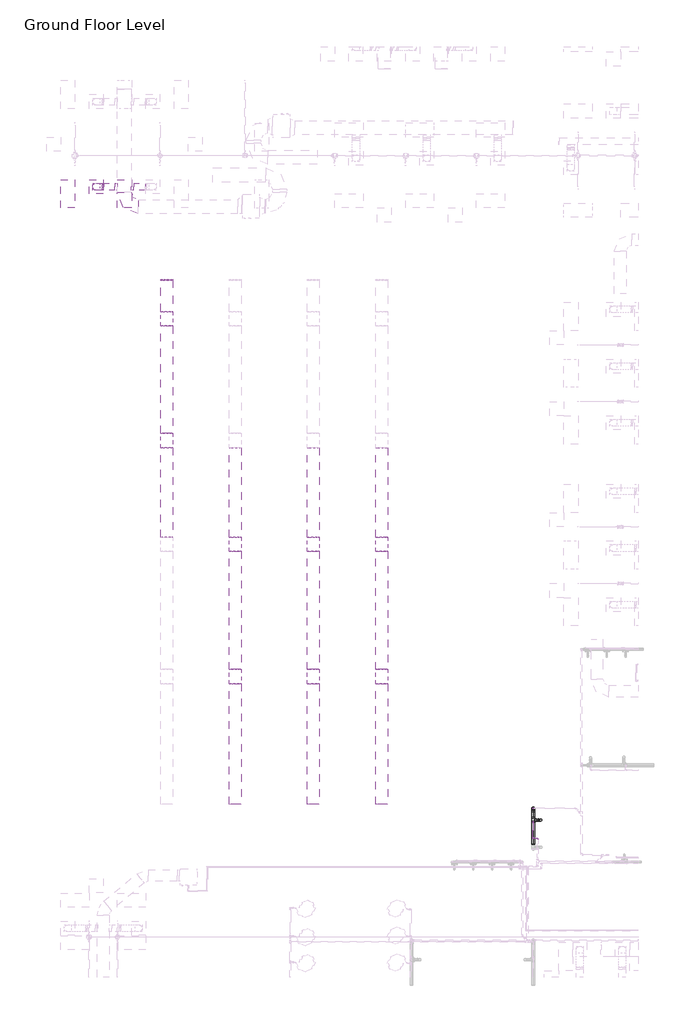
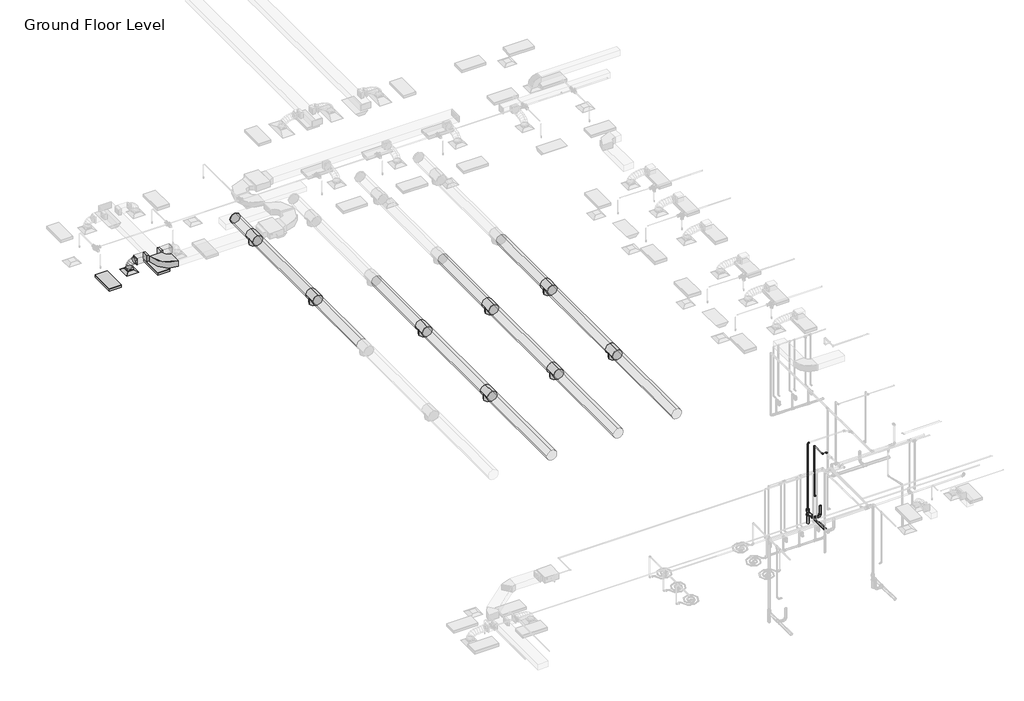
# One storey, part 9 of 68: 15 duct segments, 14 duct fittings, 11 pipe segments, 9 pipe fittings, 2 light fixtures, 1 air terminal.
"""IFC4 building model written with IfcOpenShell, lengths in millimetres."""

from ifc_helpers import new_model, si_unit, point, frame, frame_2d, origin, place, context, project, spatial, polyline, circle_curve, ellipse_curve, trimmed, segment, composite_curve, outline, extrude, transform, mapped, element, save
from ifc_brep_helpers import plane_surface, cylinder_surface, advanced_brep
from components import m_return_diffuser_600_x_600_face_300_x_300_connection_ff221211, m_rectangular_elbow_radius_1_w_c6ed0251, m_rectangular_takeoff_standard_cb0ccb98, m_rectangular_takeoff_standard_2be5eba1, m_rectangular_to_round_transition_angle_45_degree_641efff0, m_round_endcap_standard_1c45c55c, m_round_tee_standard_ed589d36, m_troffer_light_parabolic_rectangular1_0600x1200mm_4_lamp_86473d4a, m_bend_pvc_sch_40_dwv_standard_a4b99d37, m_bend_pvc_sch_40_dwv_standard_aca7b112, m_reducer_pvc_sch_40_dwv_standard_19331f3d, m_tee_reducing_sanitary_pvc_sch_40_dwv_standard_b49161a9, m_tee_reducing_sanitary_pvc_sch_40_dwv_standard_749dcb00, standard_517a5a8d

model = new_model("IFC4")

# Units and contexts
model_context = context("Model", 3, world=origin())
ifc_project = project(units=[si_unit("LENGTHUNIT", "METRE", prefix="MILLI")], contexts=[model_context])

# Site, building, storey
site = spatial("IfcSite", under=ifc_project)
building = spatial("IfcBuilding", under=site)
storey = spatial("IfcBuildingStorey", under=building, Name="Ground Floor Level", Elevation=900.0)

# Air terminal
placement = place(None, origin())
m_return_diffuser_600_x_600_face_300_x_300_connection_shape = m_return_diffuser_600_x_600_face_300_x_300_connection_ff221211(model_context)
element("IfcAirTerminal", 1, ObjectType="M_Supply Diffuser : 600 x 600 Face 300 x 300 Connection", at=placement, inside=storey, context=model_context, shape_type="MappedRepresentation", body=[
    mapped(m_return_diffuser_600_x_600_face_300_x_300_connection_shape, transform((-19137.2327605, -4264.7846466, 3650.0), x_axis=(1.0, 0.0, 0.0), y_axis=(0.0, 1.0, 0.0), z_axis=(0.0, 0.0, 1.0))),
])

# Duct fittings
m_rectangular_elbow_radius_1_w_shape = m_rectangular_elbow_radius_1_w_c6ed0251(model_context)
element("IfcDuctFitting", 2, ObjectType="M_Rectangular Elbow - Radius : 1 W", at=placement, inside=storey, context=model_context, shape_type="MappedRepresentation", body=[
    mapped(m_rectangular_elbow_radius_1_w_shape, transform((-17948.0331707, -5111.2846466, 4099.9999574), x_axis=(0.0, -0.999999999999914, -4.1482844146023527e-07), y_axis=(0.9999999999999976, 0.0, 7.102056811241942e-08), z_axis=(-7.102056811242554e-08, -4.1482844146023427e-07, 0.9999999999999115))),
])
m_rectangular_takeoff_standard_shape = m_rectangular_takeoff_standard_cb0ccb98(model_context)
element("IfcDuctFitting", 3, ObjectType="M_Rectangular Takeoff : Standard", at=placement, inside=storey, context=model_context, shape_type="MappedRepresentation", body=[
    mapped(m_rectangular_takeoff_standard_shape, transform((-18248.0331707, -4264.7846466, 4100.0003085), x_axis=(-1.0, 0.0, 0.0), y_axis=(0.0, 1.0, 0.0), z_axis=(0.0, 0.0, -1.0))),
])
m_rectangular_takeoff_standard_2_shape = m_rectangular_takeoff_standard_2be5eba1(model_context)
element("IfcDuctFitting", 4, ObjectType="M_Rectangular Takeoff : Standard", at=placement, inside=storey, context=model_context, shape_type="MappedRepresentation", body=[
    mapped(m_rectangular_takeoff_standard_2_shape, transform((-17648.0331707, -4264.7846466, 4100.0003085), x_axis=(1.0, 0.0, 0.0), y_axis=(0.0, -1.0, 0.0), z_axis=(0.0, 0.0, -1.0))),
])
m_rectangular_to_round_transition_angle_45_degree_shape = m_rectangular_to_round_transition_angle_45_degree_641efff0(model_context)
element("IfcDuctFitting", 5, ObjectType="M_Rectangular to Round Transition - Angle : 45 Degree", at=placement, inside=storey, context=model_context, shape_type="MappedRepresentation", body=[
    mapped(m_rectangular_to_round_transition_angle_45_degree_shape, transform((-19137.2327605, -4264.7846466, 3751.6), x_axis=(0.0, 0.0, 1.0), y_axis=(-1.0, 0.0, 0.0), z_axis=(0.0, -1.0, 0.0))),
])
element("IfcDuctFitting", 6, ObjectType="M_Rectangular to Round Transition - Angle : 45 Degree", at=placement, inside=storey, context=model_context, shape_type="MappedRepresentation", body=[
    mapped(m_rectangular_to_round_transition_angle_45_degree_shape, transform((-18809.8971378, -4264.7846466, 4100.0003085), x_axis=(-1.0, 0.0, 0.0), y_axis=(0.0, -1.0, 0.0), z_axis=(0.0, 0.0, 1.0))),
])
m_round_endcap_standard_shape = m_round_endcap_standard_1c45c55c(model_context)
element("IfcDuctFitting", 7, ObjectType="M_Round Endcap : Standard", at=placement, inside=storey, context=model_context, shape_type="MappedRepresentation", body=[
    mapped(m_round_endcap_standard_shape, transform((-16150.3527512, -8221.0125677, 7765.9), x_axis=(0.0, 0.9999999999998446, -5.576948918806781e-07), y_axis=(-1.0000000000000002, 0.0, 0.0), z_axis=(0.0, 5.576948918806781e-07, 0.9999999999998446))),
])
m_round_tee_standard_shape = m_round_tee_standard_ed589d36(model_context)
element("IfcDuctFitting", 8, ObjectType="M_Round Tee : Standard", at=placement, inside=storey, context=model_context, shape_type="MappedRepresentation", body=[
    mapped(m_round_tee_standard_shape, transform((-16150.3527512, -9864.7844235, 7765.9009947), x_axis=(0.0, 0.9999999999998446, -5.576948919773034e-07), y_axis=(0.0, 5.576948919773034e-07, 0.9999999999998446), z_axis=(1.0, 0.0, 0.0))),
])
element("IfcDuctFitting", 9, ObjectType="M_Round Tee : Standard", at=placement, inside=storey, context=model_context, shape_type="MappedRepresentation", body=[
    mapped(m_round_tee_standard_shape, transform((-16150.3527512, -15012.784348, 7765.9038657), x_axis=(0.0, 0.9999999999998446, -5.576948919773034e-07), y_axis=(0.0, 5.576948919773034e-07, 0.9999999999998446), z_axis=(1.0, 0.0, 0.0))),
])
element("IfcDuctFitting", 10, ObjectType="M_Round Tee : Standard", at=placement, inside=storey, context=model_context, shape_type="MappedRepresentation", body=[
    mapped(m_round_tee_standard_shape, transform((-13250.3527512, -19404.784563, 7765.9063151), x_axis=(0.0, 0.9999999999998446, -5.576948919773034e-07), y_axis=(0.0, 5.576948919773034e-07, 0.9999999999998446), z_axis=(1.0, 0.0, 0.0))),
])
element("IfcDuctFitting", 11, ObjectType="M_Round Tee : Standard", at=placement, inside=storey, context=model_context, shape_type="MappedRepresentation", body=[
    mapped(m_round_tee_standard_shape, transform((-13250.3527512, -25004.784563, 7765.9094382), x_axis=(0.0, 0.9999999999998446, -5.576948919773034e-07), y_axis=(0.0, 5.576948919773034e-07, 0.9999999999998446), z_axis=(1.0, 0.0, 0.0))),
])
element("IfcDuctFitting", 12, ObjectType="M_Round Tee : Standard", at=placement, inside=storey, context=model_context, shape_type="MappedRepresentation", body=[
    mapped(m_round_tee_standard_shape, transform((-9950.3527512, -19404.784563, 7765.9063151), x_axis=(0.0, 0.9999999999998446, -5.576948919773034e-07), y_axis=(0.0, 5.576948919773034e-07, 0.9999999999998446), z_axis=(1.0, 0.0, 0.0))),
])
element("IfcDuctFitting", 13, ObjectType="M_Round Tee : Standard", at=placement, inside=storey, context=model_context, shape_type="MappedRepresentation", body=[
    mapped(m_round_tee_standard_shape, transform((-9950.3527512, -25004.784563, 7765.9094382), x_axis=(0.0, 0.9999999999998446, -5.576948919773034e-07), y_axis=(0.0, 5.576948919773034e-07, 0.9999999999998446), z_axis=(1.0, 0.0, 0.0))),
])
element("IfcDuctFitting", 14, ObjectType="M_Round Tee : Standard", at=placement, inside=storey, context=model_context, shape_type="MappedRepresentation", body=[
    mapped(m_round_tee_standard_shape, transform((-7050.3527512, -19404.784563, 7765.9063151), x_axis=(0.0, 0.9999999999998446, -5.576948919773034e-07), y_axis=(0.0, 5.576948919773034e-07, 0.9999999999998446), z_axis=(1.0, 0.0, 0.0))),
])
element("IfcDuctFitting", 15, ObjectType="M_Round Tee : Standard", at=placement, inside=storey, context=model_context, shape_type="MappedRepresentation", body=[
    mapped(m_round_tee_standard_shape, transform((-7050.3527512, -25004.784563, 7765.9094382), x_axis=(0.0, 0.9999999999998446, -5.576948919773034e-07), y_axis=(0.0, 5.576948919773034e-07, 0.9999999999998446), z_axis=(1.0, 0.0, 0.0))),
])

# Duct segments
element("IfcDuctSegment", 16, ObjectType="Flex - Round", at=placement, inside=storey, context=model_context, shape_type="AdvancedBrep", body=[
    advanced_brep(
    [(-18987.2327605, -4264.7846466, 3826.6), (-19137.2327605, -4414.7846466, 3826.6), (-19287.2327605, -4264.7846466, 3826.6), (-19137.2327605, -4114.7846466, 3826.6), (-18987.2327605, -4264.7846466, 3832.5806494), (-19137.2327605, -4414.7846466, 3854.3870846), (-19287.2327605, -4264.7846466, 3876.1935198), (-19137.2327605, -4114.7846466, 3854.3870846), (-18983.2864584, -4264.7846466, 3845.866521), (-19122.8954468, -4414.7846466, 3902.6559964), (-19262.5044353, -4264.7846466, 3959.4454718), (-19122.8954468, -4114.7846466, 3902.6559964), (-18960.1038556, -4264.7846466, 3889.9713348), (-19084.1273946, -4414.7846466, 3976.4120685), (-19208.1509336, -4264.7846466, 4062.8528022), (-19084.1273946, -4114.7846466, 3976.4120685), (-18929.3324827, -4264.7846466, 3924.1186367), (-19027.2944369, -4414.7846466, 4039.4801732), (-19125.2563911, -4264.7846466, 4154.8417097), (-19027.2944369, -4114.7846466, 4039.4801732), (-18889.6598286, -4264.7846466, 3949.5853148), (-18958.7624069, -4414.7846466, 4083.4722675), (-19027.8649852, -4264.7846466, 4217.3592203), (-18958.7624069, -4114.7846466, 4083.4722675), (-18888.6275862, -4264.7846466, 3950.0003085), (-18917.6510814, -4414.7846466, 4100.0003085), (-18946.6745767, -4264.7846466, 4250.0003085), (-18917.6510814, -4114.7846466, 4100.0003085), (-18884.8971378, -4264.7846466, 3950.0003085), (-18884.8971378, -4114.7846466, 4100.0003085), (-18884.8971378, -4264.7846466, 4250.0003085), (-18884.8971378, -4414.7846466, 4100.0003085)],
    [
        (0, 1, circle_curve(frame((-19137.2327605, -4264.7846466, 3826.6), z_axis=(0.0, 0.0, -1.0), x_axis=(1.0, 0.0, 0.0)), 150.0)),
        (1, 2, circle_curve(frame((-19137.2327605, -4264.7846466, 3826.6), z_axis=(0.0, 0.0, -1.0), x_axis=(1.0, 0.0, 0.0)), 150.0)),
        (2, 3, circle_curve(frame((-19137.2327605, -4264.7846466, 3826.6), z_axis=(0.0, 0.0, -1.0), x_axis=(1.0, 0.0, 0.0)), 150.0)),
        (3, 0, circle_curve(frame((-19137.2327605, -4264.7846466, 3826.6), z_axis=(0.0, 0.0, -1.0), x_axis=(1.0, 0.0, 0.0)), 150.0)),
        (0, 4),
        (4, 5, ellipse_curve(frame((-19137.2327605, -4264.7846466, 3854.3870846), z_axis=(-0.14386395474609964, 0.0, -0.9895974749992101), x_axis=(0.9895974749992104, 0.0, -0.14386395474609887)), 151.5767813, 150.0)),
        (5, 1),
        (5, 6, ellipse_curve(frame((-19137.2327605, -4264.7846466, 3854.3870846), z_axis=(-0.14386395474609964, 0.0, -0.9895974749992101), x_axis=(0.9895974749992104, 0.0, -0.14386395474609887)), 151.5767813, 150.0)),
        (6, 2),
        (6, 7, ellipse_curve(frame((-19137.2327605, -4264.7846466, 3854.3870846), z_axis=(-0.14386395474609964, 0.0, -0.9895974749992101), x_axis=(0.9895974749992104, 0.0, -0.14386395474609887)), 151.5767813, 150.0)),
        (7, 3),
        (7, 4, ellipse_curve(frame((-19137.2327605, -4264.7846466, 3854.3870846), z_axis=(-0.14386395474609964, 0.0, -0.9895974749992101), x_axis=(0.9895974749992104, 0.0, -0.14386395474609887)), 151.5767813, 150.0)),
        (4, 8),
        (8, 9, ellipse_curve(frame((-19122.8954468, -4264.7846466, 3902.6559964), z_axis=(-0.376794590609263, 0.0, -0.9262968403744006), x_axis=(0.9262968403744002, 0.0, -0.37679459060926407)), 150.717332, 150.0)),
        (9, 5),
        (9, 10, ellipse_curve(frame((-19122.8954468, -4264.7846466, 3902.6559964), z_axis=(-0.376794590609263, 0.0, -0.9262968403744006), x_axis=(0.9262968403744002, 0.0, -0.37679459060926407)), 150.717332, 150.0)),
        (10, 6),
        (10, 11, ellipse_curve(frame((-19122.8954468, -4264.7846466, 3902.6559964), z_axis=(-0.376794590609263, 0.0, -0.9262968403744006), x_axis=(0.9262968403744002, 0.0, -0.37679459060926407)), 150.717332, 150.0)),
        (11, 7),
        (11, 8, ellipse_curve(frame((-19122.8954468, -4264.7846466, 3902.6559964), z_axis=(-0.376794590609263, 0.0, -0.9262968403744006), x_axis=(0.9262968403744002, 0.0, -0.37679459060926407)), 150.717332, 150.0)),
        (8, 12),
        (12, 13, ellipse_curve(frame((-19084.1273946, -4264.7846466, 3976.4120685), z_axis=(-0.5717930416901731, 0.0, -0.8203979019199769), x_axis=(0.8203979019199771, 0.0, -0.5717930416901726)), 151.1748612, 150.0)),
        (13, 9),
        (13, 14, ellipse_curve(frame((-19084.1273946, -4264.7846466, 3976.4120685), z_axis=(-0.5717930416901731, 0.0, -0.8203979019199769), x_axis=(0.8203979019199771, 0.0, -0.5717930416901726)), 151.1748612, 150.0)),
        (14, 10),
        (14, 15, ellipse_curve(frame((-19084.1273946, -4264.7846466, 3976.4120685), z_axis=(-0.5717930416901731, 0.0, -0.8203979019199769), x_axis=(0.8203979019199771, 0.0, -0.5717930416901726)), 151.1748612, 150.0)),
        (15, 11),
        (15, 12, ellipse_curve(frame((-19084.1273946, -4264.7846466, 3976.4120685), z_axis=(-0.5717930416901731, 0.0, -0.8203979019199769), x_axis=(0.8203979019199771, 0.0, -0.5717930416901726)), 151.1748612, 150.0)),
        (12, 16),
        (16, 17, ellipse_curve(frame((-19027.2944369, -4264.7846466, 4039.4801732), z_axis=(-0.7622501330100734, 0.0, -0.6472825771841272), x_axis=(0.6472825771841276, 0.0, -0.7622501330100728)), 151.3434127, 150.0)),
        (17, 13),
        (17, 18, ellipse_curve(frame((-19027.2944369, -4264.7846466, 4039.4801732), z_axis=(-0.7622501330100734, 0.0, -0.6472825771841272), x_axis=(0.6472825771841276, 0.0, -0.7622501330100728)), 151.3434127, 150.0)),
        (18, 14),
        (18, 19, ellipse_curve(frame((-19027.2944369, -4264.7846466, 4039.4801732), z_axis=(-0.7622501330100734, 0.0, -0.6472825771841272), x_axis=(0.6472825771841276, 0.0, -0.7622501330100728)), 151.3434127, 150.0)),
        (19, 15),
        (19, 16, ellipse_curve(frame((-19027.2944369, -4264.7846466, 4039.4801732), z_axis=(-0.7622501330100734, 0.0, -0.6472825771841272), x_axis=(0.6472825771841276, 0.0, -0.7622501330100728)), 151.3434127, 150.0)),
        (16, 20),
        (20, 21, ellipse_curve(frame((-18958.7624069, -4264.7846466, 4083.4722675), z_axis=(-0.8886216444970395, 0.0, -0.45864100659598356), x_axis=(0.45864100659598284, 0.0, -0.88862164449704)), 150.6681202, 150.0)),
        (21, 17),
        (21, 22, ellipse_curve(frame((-18958.7624069, -4264.7846466, 4083.4722675), z_axis=(-0.8886216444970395, 0.0, -0.45864100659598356), x_axis=(0.45864100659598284, 0.0, -0.88862164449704)), 150.6681202, 150.0)),
        (22, 18),
        (22, 23, ellipse_curve(frame((-18958.7624069, -4264.7846466, 4083.4722675), z_axis=(-0.8886216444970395, 0.0, -0.45864100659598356), x_axis=(0.45864100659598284, 0.0, -0.88862164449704)), 150.6681202, 150.0)),
        (23, 19),
        (23, 20, ellipse_curve(frame((-18958.7624069, -4264.7846466, 4083.4722675), z_axis=(-0.8886216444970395, 0.0, -0.45864100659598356), x_axis=(0.45864100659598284, 0.0, -0.88862164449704)), 150.6681202, 150.0)),
        (20, 24),
        (24, 25, ellipse_curve(frame((-18917.6510814, -4264.7846466, 4100.0003085), z_axis=(-0.9817905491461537, 0.0, -0.18996662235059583), x_axis=(0.18996662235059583, 0.0, -0.9817905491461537)), 152.7820777, 150.0)),
        (25, 21),
        (25, 26, ellipse_curve(frame((-18917.6510814, -4264.7846466, 4100.0003085), z_axis=(-0.9817905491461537, 0.0, -0.18996662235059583), x_axis=(0.18996662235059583, 0.0, -0.9817905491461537)), 152.7820777, 150.0)),
        (26, 22),
        (26, 27, ellipse_curve(frame((-18917.6510814, -4264.7846466, 4100.0003085), z_axis=(-0.9817905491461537, 0.0, -0.18996662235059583), x_axis=(0.18996662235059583, 0.0, -0.9817905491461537)), 152.7820777, 150.0)),
        (27, 23),
        (27, 24, ellipse_curve(frame((-18917.6510814, -4264.7846466, 4100.0003085), z_axis=(-0.9817905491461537, 0.0, -0.18996662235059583), x_axis=(0.18996662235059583, 0.0, -0.9817905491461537)), 152.7820777, 150.0)),
        (28, 29, circle_curve(frame((-18884.8971378, -4264.7846466, 4100.0003085), z_axis=(1.0, 0.0, 0.0), x_axis=(0.0, 0.0, -1.0)), 150.0)),
        (29, 30, circle_curve(frame((-18884.8971378, -4264.7846466, 4100.0003085), z_axis=(1.0, 0.0, 0.0), x_axis=(0.0, 0.0, -1.0)), 150.0)),
        (30, 31, circle_curve(frame((-18884.8971378, -4264.7846466, 4100.0003085), z_axis=(1.0, 0.0, 0.0), x_axis=(0.0, 0.0, -1.0)), 150.0)),
        (31, 28, circle_curve(frame((-18884.8971378, -4264.7846466, 4100.0003085), z_axis=(1.0, 0.0, 0.0), x_axis=(0.0, 0.0, -1.0)), 150.0)),
        (24, 28),
        (31, 25),
        (30, 26),
        (29, 27),
    ],
    [
        plane_surface(frame((-19137.2327605, -4414.7846466, 3826.6), z_axis=(0.0, 0.0, -1.0), x_axis=(1.0, 0.0, 0.0))),
        cylinder_surface(frame((-19137.2327605, -4264.7846466, 3826.6), z_axis=(0.0, 0.0, -1.0), x_axis=(1.0, 0.0, 0.0)), 150.0),
        cylinder_surface(frame((-19137.2327605, -4264.7846466, 3854.3870846), z_axis=(-0.28473481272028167, 0.0, -0.9586063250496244), x_axis=(0.9586063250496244, 0.0, -0.28473481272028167)), 150.0),
        cylinder_surface(frame((-19122.8954468, -4264.7846466, 3902.6559964), z_axis=(-0.4652676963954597, 0.0, -0.8851700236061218), x_axis=(0.8851700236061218, 0.0, -0.4652676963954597)), 150.0),
        cylinder_surface(frame((-19084.1273946, -4264.7846466, 3976.4120685), z_axis=(-0.6694309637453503, 0.0, -0.7428742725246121), x_axis=(0.7428742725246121, 0.0, -0.6694309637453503)), 150.0),
        cylinder_surface(frame((-19027.2944369, -4264.7846466, 4039.4801732), z_axis=(-0.8415369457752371, 0.0, -0.5401995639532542), x_axis=(0.5401995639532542, 0.0, -0.8415369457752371)), 150.0),
        cylinder_surface(frame((-18958.7624069, -4264.7846466, 4083.4722675), z_axis=(-0.9278253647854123, 0.0, -0.37301486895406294), x_axis=(0.37301486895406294, 0.0, -0.9278253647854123)), 150.0),
        plane_surface(frame((-18884.8971378, -4264.7846466, 3950.0003085), z_axis=(1.0, 0.0, 0.0), x_axis=(0.0, 1.0, 0.0))),
        cylinder_surface(frame((-18917.6510814, -4264.7846466, 4100.0003085), z_axis=(-1.0, 0.0, 0.0), x_axis=(0.0, 0.0, -1.0)), 150.0),
    ],
    [
        (0, [[1, 2, 3, 4]]),
        (1, [[-1, 5, 6, 7]]),
        (1, [[-2, -7, 8, 9]]),
        (1, [[-3, -9, 10, 11]]),
        (1, [[-4, -11, 12, -5]]),
        (2, [[-6, 13, 14, 15]]),
        (2, [[-8, -15, 16, 17]]),
        (2, [[-10, -17, 18, 19]]),
        (2, [[-12, -19, 20, -13]]),
        (3, [[-14, 21, 22, 23]]),
        (3, [[-16, -23, 24, 25]]),
        (3, [[-18, -25, 26, 27]]),
        (3, [[-20, -27, 28, -21]]),
        (4, [[-22, 29, 30, 31]]),
        (4, [[-24, -31, 32, 33]]),
        (4, [[-26, -33, 34, 35]]),
        (4, [[-28, -35, 36, -29]]),
        (5, [[-30, 37, 38, 39]]),
        (5, [[-32, -39, 40, 41]]),
        (5, [[-34, -41, 42, 43]]),
        (5, [[-36, -43, 44, -37]]),
        (6, [[-38, 45, 46, 47]]),
        (6, [[-40, -47, 48, 49]]),
        (6, [[-42, -49, 50, 51]]),
        (6, [[-44, -51, 52, -45]]),
        (7, [[53, 54, 55, 56]]),
        (8, [[-46, 57, -56, 58]]),
        (8, [[-48, -58, -55, 59]]),
        (8, [[-50, -59, -54, 60]]),
        (8, [[-52, -60, -53, -57]]),
    ],
),
])
element("IfcDuctSegment", 17, ObjectType="Radius Elbows / Taps", at=placement, inside=storey, context=model_context, shape_type="SweptSolid", body=[
    extrude(outline(polyline([(-17546.4331707, -4414.7846466), (-17546.4331707, -4114.7846466), (-17064.5683833, -4114.7846466), (-17064.5683833, -4414.7846466), (-17546.4331707, -4414.7846466)])), frame((0.0, 0.0, 3950.0003085), z_axis=(0.0, 0.0, 1.0), x_axis=(1.0, 0.0, 0.0)), (0.0, 0.0, 1.0), 300.0),
])
element("IfcDuctSegment", 18, ObjectType="Radius Elbows / Taps", at=placement, inside=storey, context=model_context, shape_type="SweptSolid", body=[
    extrude(outline(polyline([(-18349.6331707, -4114.7846466), (-18349.6331707, -4414.7846466), (-18809.8971378, -4414.7846466), (-18809.8971378, -4114.7846466), (-18349.6331707, -4114.7846466)])), frame((0.0, 0.0, 3950.0003085), z_axis=(0.0, 0.0, 1.0), x_axis=(1.0, 0.0, 0.0)), (0.0, 0.0, 1.0), 300.0),
])
element("IfcDuctSegment", 19, ObjectType="Tees", at=placement, inside=storey, context=model_context, shape_type="SweptSolid", body=[
    extrude(outline(composite_curve([segment(trimmed(circle_curve(frame_2d((7765.9008274, -16150.3527512)), 250.0), [point((7765.9008274, -16400.3527512))], [point((7515.9008274, -16150.3527512))], False, "CARTESIAN"), True, "CONTINUOUS"), segment(trimmed(circle_curve(frame_2d((7765.9008274, -16150.3527512)), 250.0), [point((7515.9008274, -16150.3527512))], [point((7765.9008274, -15900.3527512))], False, "CARTESIAN"), True, "CONTINUOUS"), segment(trimmed(circle_curve(frame_2d((7765.9008274, -16150.3527512)), 250.0), [point((7765.9008274, -15900.3527512))], [point((8015.9008274, -16150.3527512))], False, "CARTESIAN"), True, "CONTINUOUS"), segment(trimmed(circle_curve(frame_2d((7765.9008274, -16150.3527512)), 250.0), [point((8015.9008274, -16150.3527512))], [point((7765.9008274, -16400.3527512))], False, "CARTESIAN"), True, "CONTINUOUS")], self_intersect=False)), frame((0.0, -9564.7844235, 0.0), z_axis=(0.0, 1.0, 0.0), x_axis=(0.0, 0.0, 1.0)), (0.0, 0.0, 1.0), 1343.7718558),
])
element("IfcDuctSegment", 20, ObjectType="Tees", at=placement, inside=storey, context=model_context, shape_type="SweptSolid", body=[
    extrude(outline(composite_curve([segment(trimmed(circle_curve(frame_2d((7765.901162, -16150.3527512)), 250.0), [point((7765.901162, -16400.3527512))], [point((7515.901162, -16150.3527512))], False, "CARTESIAN"), True, "CONTINUOUS"), segment(trimmed(circle_curve(frame_2d((7765.901162, -16150.3527512)), 250.0), [point((7515.901162, -16150.3527512))], [point((7765.901162, -15900.3527512))], False, "CARTESIAN"), True, "CONTINUOUS"), segment(trimmed(circle_curve(frame_2d((7765.901162, -16150.3527512)), 250.0), [point((7765.901162, -15900.3527512))], [point((8015.901162, -16150.3527512))], False, "CARTESIAN"), True, "CONTINUOUS"), segment(trimmed(circle_curve(frame_2d((7765.901162, -16150.3527512)), 250.0), [point((8015.901162, -16150.3527512))], [point((7765.901162, -16400.3527512))], False, "CARTESIAN"), True, "CONTINUOUS")], self_intersect=False)), frame((0.0, -14712.784348, 0.0), z_axis=(0.0, 1.0, 0.0), x_axis=(0.0, 0.0, 1.0)), (0.0, 0.0, 1.0), 4547.9999245),
])
element("IfcDuctSegment", 21, ObjectType="Tees", at=placement, inside=storey, context=model_context, shape_type="SweptSolid", body=[
    extrude(outline(composite_curve([segment(trimmed(circle_curve(frame_2d((7765.9061478, -16150.3527512)), 250.0), [point((7765.9061478, -15900.3527512))], [point((8015.9061478, -16150.3527512))], False, "CARTESIAN"), True, "CONTINUOUS"), segment(trimmed(circle_curve(frame_2d((7765.9061478, -16150.3527512)), 250.0), [point((8015.9061478, -16150.3527512))], [point((7765.9061478, -16400.3527512))], False, "CARTESIAN"), True, "CONTINUOUS"), segment(trimmed(circle_curve(frame_2d((7765.9061478, -16150.3527512)), 250.0), [point((7765.9061478, -16400.3527512))], [point((7515.9061478, -16150.3527512))], False, "CARTESIAN"), True, "CONTINUOUS"), segment(trimmed(circle_curve(frame_2d((7765.9061478, -16150.3527512)), 250.0), [point((7515.9061478, -16150.3527512))], [point((7765.9061478, -15900.3527512))], False, "CARTESIAN"), True, "CONTINUOUS")], self_intersect=False)), frame((0.0, -19104.784563, 0.0), z_axis=(0.0, 1.0, 0.0), x_axis=(0.0, 0.0, 1.0)), (0.0, 0.0, 1.0), 3792.000215),
])
element("IfcDuctSegment", 22, ObjectType="Tees", at=placement, inside=storey, context=model_context, shape_type="SweptSolid", body=[
    extrude(outline(composite_curve([segment(trimmed(circle_curve(frame_2d((7765.9061478, -13250.3527512)), 250.0), [point((7765.9061478, -13000.3527512))], [point((8015.9061478, -13250.3527512))], False, "CARTESIAN"), True, "CONTINUOUS"), segment(trimmed(circle_curve(frame_2d((7765.9061478, -13250.3527512)), 250.0), [point((8015.9061478, -13250.3527512))], [point((7765.9061478, -13500.3527512))], False, "CARTESIAN"), True, "CONTINUOUS"), segment(trimmed(circle_curve(frame_2d((7765.9061478, -13250.3527512)), 250.0), [point((7765.9061478, -13500.3527512))], [point((7515.9061478, -13250.3527512))], False, "CARTESIAN"), True, "CONTINUOUS"), segment(trimmed(circle_curve(frame_2d((7765.9061478, -13250.3527512)), 250.0), [point((7515.9061478, -13250.3527512))], [point((7765.9061478, -13000.3527512))], False, "CARTESIAN"), True, "CONTINUOUS")], self_intersect=False)), frame((0.0, -19104.784563, 0.0), z_axis=(0.0, 1.0, 0.0), x_axis=(0.0, 0.0, 1.0)), (0.0, 0.0, 1.0), 3792.000215),
])
element("IfcDuctSegment", 23, ObjectType="Tees", at=placement, inside=storey, context=model_context, shape_type="SweptSolid", body=[
    extrude(outline(composite_curve([segment(trimmed(circle_curve(frame_2d((7765.9092709, -13250.3527512)), 250.0), [point((7765.9092709, -13000.3527512))], [point((8015.9092709, -13250.3527512))], False, "CARTESIAN"), True, "CONTINUOUS"), segment(trimmed(circle_curve(frame_2d((7765.9092709, -13250.3527512)), 250.0), [point((8015.9092709, -13250.3527512))], [point((7765.9092709, -13500.3527512))], False, "CARTESIAN"), True, "CONTINUOUS"), segment(trimmed(circle_curve(frame_2d((7765.9092709, -13250.3527512)), 250.0), [point((7765.9092709, -13500.3527512))], [point((7515.9092709, -13250.3527512))], False, "CARTESIAN"), True, "CONTINUOUS"), segment(trimmed(circle_curve(frame_2d((7765.9092709, -13250.3527512)), 250.0), [point((7515.9092709, -13250.3527512))], [point((7765.9092709, -13000.3527512))], False, "CARTESIAN"), True, "CONTINUOUS")], self_intersect=False)), frame((0.0, -24704.784563, 0.0), z_axis=(0.0, 1.0, 0.0), x_axis=(0.0, 0.0, 1.0)), (0.0, 0.0, 1.0), 5000.0),
])
element("IfcDuctSegment", 24, ObjectType="Tees", at=placement, inside=storey, context=model_context, shape_type="SweptSolid", body=[
    extrude(outline(composite_curve([segment(trimmed(circle_curve(frame_2d((7765.9125, -13250.3527512)), 250.0), [point((7765.9125, -13000.3527512))], [point((8015.9125, -13250.3527512))], False, "CARTESIAN"), True, "CONTINUOUS"), segment(trimmed(circle_curve(frame_2d((7765.9125, -13250.3527512)), 250.0), [point((8015.9125, -13250.3527512))], [point((7765.9125, -13500.3527512))], False, "CARTESIAN"), True, "CONTINUOUS"), segment(trimmed(circle_curve(frame_2d((7765.9125, -13250.3527512)), 250.0), [point((7765.9125, -13500.3527512))], [point((7515.9125, -13250.3527512))], False, "CARTESIAN"), True, "CONTINUOUS"), segment(trimmed(circle_curve(frame_2d((7765.9125, -13250.3527512)), 250.0), [point((7515.9125, -13250.3527512))], [point((7765.9125, -13000.3527512))], False, "CARTESIAN"), True, "CONTINUOUS")], self_intersect=False)), frame((0.0, -30422.0587669, 0.0), z_axis=(0.0, 1.0, 0.0), x_axis=(0.0, 0.0, 1.0)), (0.0, 0.0, 1.0), 5117.2742039),
])
element("IfcDuctSegment", 25, ObjectType="Tees", at=placement, inside=storey, context=model_context, shape_type="SweptSolid", body=[
    extrude(outline(composite_curve([segment(trimmed(circle_curve(frame_2d((7765.9061478, -9950.3527512)), 250.0), [point((7765.9061478, -9700.3527512))], [point((8015.9061478, -9950.3527512))], False, "CARTESIAN"), True, "CONTINUOUS"), segment(trimmed(circle_curve(frame_2d((7765.9061478, -9950.3527512)), 250.0), [point((8015.9061478, -9950.3527512))], [point((7765.9061478, -10200.3527512))], False, "CARTESIAN"), True, "CONTINUOUS"), segment(trimmed(circle_curve(frame_2d((7765.9061478, -9950.3527512)), 250.0), [point((7765.9061478, -10200.3527512))], [point((7515.9061478, -9950.3527512))], False, "CARTESIAN"), True, "CONTINUOUS"), segment(trimmed(circle_curve(frame_2d((7765.9061478, -9950.3527512)), 250.0), [point((7515.9061478, -9950.3527512))], [point((7765.9061478, -9700.3527512))], False, "CARTESIAN"), True, "CONTINUOUS")], self_intersect=False)), frame((0.0, -19104.784563, 0.0), z_axis=(0.0, 1.0, 0.0), x_axis=(0.0, 0.0, 1.0)), (0.0, 0.0, 1.0), 3792.000215),
])
element("IfcDuctSegment", 26, ObjectType="Tees", at=placement, inside=storey, context=model_context, shape_type="SweptSolid", body=[
    extrude(outline(composite_curve([segment(trimmed(circle_curve(frame_2d((7765.9092709, -9950.3527512)), 250.0), [point((7765.9092709, -9700.3527512))], [point((8015.9092709, -9950.3527512))], False, "CARTESIAN"), True, "CONTINUOUS"), segment(trimmed(circle_curve(frame_2d((7765.9092709, -9950.3527512)), 250.0), [point((8015.9092709, -9950.3527512))], [point((7765.9092709, -10200.3527512))], False, "CARTESIAN"), True, "CONTINUOUS"), segment(trimmed(circle_curve(frame_2d((7765.9092709, -9950.3527512)), 250.0), [point((7765.9092709, -10200.3527512))], [point((7515.9092709, -9950.3527512))], False, "CARTESIAN"), True, "CONTINUOUS"), segment(trimmed(circle_curve(frame_2d((7765.9092709, -9950.3527512)), 250.0), [point((7515.9092709, -9950.3527512))], [point((7765.9092709, -9700.3527512))], False, "CARTESIAN"), True, "CONTINUOUS")], self_intersect=False)), frame((0.0, -24704.784563, 0.0), z_axis=(0.0, 1.0, 0.0), x_axis=(0.0, 0.0, 1.0)), (0.0, 0.0, 1.0), 5000.0),
])
element("IfcDuctSegment", 27, ObjectType="Tees", at=placement, inside=storey, context=model_context, shape_type="SweptSolid", body=[
    extrude(outline(composite_curve([segment(trimmed(circle_curve(frame_2d((7765.9125, -9950.3527512)), 250.0), [point((7765.9125, -9700.3527512))], [point((8015.9125, -9950.3527512))], False, "CARTESIAN"), True, "CONTINUOUS"), segment(trimmed(circle_curve(frame_2d((7765.9125, -9950.3527512)), 250.0), [point((8015.9125, -9950.3527512))], [point((7765.9125, -10200.3527512))], False, "CARTESIAN"), True, "CONTINUOUS"), segment(trimmed(circle_curve(frame_2d((7765.9125, -9950.3527512)), 250.0), [point((7765.9125, -10200.3527512))], [point((7515.9125, -9950.3527512))], False, "CARTESIAN"), True, "CONTINUOUS"), segment(trimmed(circle_curve(frame_2d((7765.9125, -9950.3527512)), 250.0), [point((7515.9125, -9950.3527512))], [point((7765.9125, -9700.3527512))], False, "CARTESIAN"), True, "CONTINUOUS")], self_intersect=False)), frame((0.0, -30422.0587669, 0.0), z_axis=(0.0, 1.0, 0.0), x_axis=(0.0, 0.0, 1.0)), (0.0, 0.0, 1.0), 5117.2742039),
])
element("IfcDuctSegment", 28, ObjectType="Tees", at=placement, inside=storey, context=model_context, shape_type="SweptSolid", body=[
    extrude(outline(composite_curve([segment(trimmed(circle_curve(frame_2d((7765.9061478, -7050.3527512)), 250.0), [point((7765.9061478, -6800.3527512))], [point((8015.9061478, -7050.3527512))], False, "CARTESIAN"), True, "CONTINUOUS"), segment(trimmed(circle_curve(frame_2d((7765.9061478, -7050.3527512)), 250.0), [point((8015.9061478, -7050.3527512))], [point((7765.9061478, -7300.3527512))], False, "CARTESIAN"), True, "CONTINUOUS"), segment(trimmed(circle_curve(frame_2d((7765.9061478, -7050.3527512)), 250.0), [point((7765.9061478, -7300.3527512))], [point((7515.9061478, -7050.3527512))], False, "CARTESIAN"), True, "CONTINUOUS"), segment(trimmed(circle_curve(frame_2d((7765.9061478, -7050.3527512)), 250.0), [point((7515.9061478, -7050.3527512))], [point((7765.9061478, -6800.3527512))], False, "CARTESIAN"), True, "CONTINUOUS")], self_intersect=False)), frame((0.0, -19104.784563, 0.0), z_axis=(0.0, 1.0, 0.0), x_axis=(0.0, 0.0, 1.0)), (0.0, 0.0, 1.0), 3792.000215),
])
element("IfcDuctSegment", 29, ObjectType="Tees", at=placement, inside=storey, context=model_context, shape_type="SweptSolid", body=[
    extrude(outline(composite_curve([segment(trimmed(circle_curve(frame_2d((7765.9092709, -7050.3527512)), 250.0), [point((7765.9092709, -6800.3527512))], [point((8015.9092709, -7050.3527512))], False, "CARTESIAN"), True, "CONTINUOUS"), segment(trimmed(circle_curve(frame_2d((7765.9092709, -7050.3527512)), 250.0), [point((8015.9092709, -7050.3527512))], [point((7765.9092709, -7300.3527512))], False, "CARTESIAN"), True, "CONTINUOUS"), segment(trimmed(circle_curve(frame_2d((7765.9092709, -7050.3527512)), 250.0), [point((7765.9092709, -7300.3527512))], [point((7515.9092709, -7050.3527512))], False, "CARTESIAN"), True, "CONTINUOUS"), segment(trimmed(circle_curve(frame_2d((7765.9092709, -7050.3527512)), 250.0), [point((7515.9092709, -7050.3527512))], [point((7765.9092709, -6800.3527512))], False, "CARTESIAN"), True, "CONTINUOUS")], self_intersect=False)), frame((0.0, -24704.784563, 0.0), z_axis=(0.0, 1.0, 0.0), x_axis=(0.0, 0.0, 1.0)), (0.0, 0.0, 1.0), 5000.0),
])
element("IfcDuctSegment", 30, ObjectType="Tees", at=placement, inside=storey, context=model_context, shape_type="SweptSolid", body=[
    extrude(outline(composite_curve([segment(trimmed(circle_curve(frame_2d((7765.9125, -7050.3527512)), 250.0), [point((7765.9125, -6800.3527512))], [point((8015.9125, -7050.3527512))], False, "CARTESIAN"), True, "CONTINUOUS"), segment(trimmed(circle_curve(frame_2d((7765.9125, -7050.3527512)), 250.0), [point((8015.9125, -7050.3527512))], [point((7765.9125, -7300.3527512))], False, "CARTESIAN"), True, "CONTINUOUS"), segment(trimmed(circle_curve(frame_2d((7765.9125, -7050.3527512)), 250.0), [point((7765.9125, -7300.3527512))], [point((7515.9125, -7050.3527512))], False, "CARTESIAN"), True, "CONTINUOUS"), segment(trimmed(circle_curve(frame_2d((7765.9125, -7050.3527512)), 250.0), [point((7515.9125, -7050.3527512))], [point((7765.9125, -6800.3527512))], False, "CARTESIAN"), True, "CONTINUOUS")], self_intersect=False)), frame((0.0, -30422.0587669, 0.0), z_axis=(0.0, 1.0, 0.0), x_axis=(0.0, 0.0, 1.0)), (0.0, 0.0, 1.0), 5117.2742039),
])

# Light fixtures
m_troffer_light_parabolic_rectangular1_0600x1200mm_4_lamp_shape = m_troffer_light_parabolic_rectangular1_0600x1200mm_4_lamp_86473d4a(model_context)
element("IfcLightFixture", 31, ObjectType="M_Troffer Light - Parabolic Rectangular1 : 0600x1200mm(4 Lamp) - 277V 2", at=placement, inside=storey, context=model_context, shape_type="MappedRepresentation", body=[
    mapped(m_troffer_light_parabolic_rectangular1_0600x1200mm_4_lamp_shape, transform((-20396.6986926, -4546.081145, 3650.0), x_axis=(0.0, 1.0, 0.0), y_axis=(-1.0, 0.0, 0.0), z_axis=(0.0, 0.0, 1.0))),
])
element("IfcLightFixture", 32, ObjectType="M_Troffer Light - Parabolic Rectangular1 : 0600x1200mm(4 Lamp) - 277V 2", at=placement, inside=storey, context=model_context, shape_type="MappedRepresentation", body=[
    mapped(m_troffer_light_parabolic_rectangular1_0600x1200mm_4_lamp_shape, transform((-17996.6986926, -4546.081145, 3650.0), x_axis=(0.0, 1.0, 0.0), y_axis=(-1.0, 0.0, 0.0), z_axis=(0.0, 0.0, 1.0))),
])

# Pipe fittings
m_bend_pvc_sch_40_dwv_standard_shape = m_bend_pvc_sch_40_dwv_standard_a4b99d37(model_context)
element("IfcPipeFitting", 33, ObjectType="M_Bend - PVC - Sch 40 - DWV : Standard", at=placement, inside=storey, context=model_context, shape_type="MappedRepresentation", body=[
    mapped(m_bend_pvc_sch_40_dwv_standard_shape, transform((-313.6900632, -31081.5465789, 464.3982101), x_axis=(0.0, 0.0, -1.0), y_axis=(-1.0, 0.0, 0.0), z_axis=(0.0, 1.0, 0.0))),
])
m_bend_pvc_sch_40_dwv_standard_2_shape = m_bend_pvc_sch_40_dwv_standard_aca7b112(model_context)
element("IfcPipeFitting", 34, ObjectType="M_Bend - PVC - Sch 40 - DWV : Standard", at=placement, inside=storey, context=model_context, shape_type="MappedRepresentation", body=[
    mapped(m_bend_pvc_sch_40_dwv_standard_2_shape, transform((-633.5363684, -30581.7541446, 4084.0463877), x_axis=(0.0, 0.0, 1.0), y_axis=(1.0, 0.0, 0.0), z_axis=(0.0, 1.0, 0.0))),
])
m_reducer_pvc_sch_40_dwv_standard_shape = m_reducer_pvc_sch_40_dwv_standard_19331f3d(model_context)
element("IfcPipeFitting", 35, ObjectType="M_Reducer - PVC - Sch 40 - DWV : Standard", at=placement, inside=storey, context=model_context, shape_type="MappedRepresentation", body=[
    mapped(m_reducer_pvc_sch_40_dwv_standard_shape, transform((-633.5600391, -30581.725568, 578.5642409), x_axis=(0.0, 0.0, 1.0), y_axis=(0.0, 1.0, 0.0), z_axis=(-1.0, 0.0, 0.0))),
])
m_tee_reducing_sanitary_pvc_sch_40_dwv_standard_shape = m_tee_reducing_sanitary_pvc_sch_40_dwv_standard_b49161a9(model_context)
element("IfcPipeFitting", 36, ObjectType="M_Tee Reducing Sanitary - PVC - Sch 40 - DWV : Standard", at=placement, inside=storey, context=model_context, shape_type="MappedRepresentation", body=[
    mapped(m_tee_reducing_sanitary_pvc_sch_40_dwv_standard_shape, transform((-633.5600391, -31081.5465789, 464.3982101), x_axis=(0.0, -0.9999500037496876, 0.009999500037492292), y_axis=(-1.0, 0.0, 0.0), z_axis=(0.0, -0.009999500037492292, -0.9999500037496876))),
])
m_tee_reducing_sanitary_pvc_sch_40_dwv_standard_2_shape = m_tee_reducing_sanitary_pvc_sch_40_dwv_standard_749dcb00(model_context)
element("IfcPipeFitting", 37, ObjectType="M_Tee Reducing Sanitary - PVC - Sch 40 - DWV : Standard", at=placement, inside=storey, context=model_context, shape_type="MappedRepresentation", body=[
    mapped(m_tee_reducing_sanitary_pvc_sch_40_dwv_standard_2_shape, transform((-633.5600391, -30581.725568, 459.4), x_axis=(0.0, 0.0, 1.0), y_axis=(0.0, 1.0, 0.0), z_axis=(-1.0, 0.0, 0.0))),
])
standard_shape = standard_517a5a8d(model_context)
element("IfcPipeFitting", 38, ObjectType="M_Elbow - CPVC - Sch 40 : Standard", at=placement, inside=storey, context=model_context, shape_type="MappedRepresentation", body=[
    mapped(standard_shape, transform((-647.2327605, -31154.9853451, 1655.0), x_axis=(-1.0, 0.0, 0.0), y_axis=(0.0, 0.0, 1.0), z_axis=(0.0, 1.0, 0.0))),
])
element("IfcPipeFitting", 39, ObjectType="M_Elbow - CPVC - Sch 40 : Standard", at=placement, inside=storey, context=model_context, shape_type="MappedRepresentation", body=[
    mapped(standard_shape, transform((-647.2327605, -31154.9853451, 4300.0), x_axis=(0.0, 0.0, 1.0), y_axis=(0.0, -1.0, 0.0), z_axis=(1.0, 0.0, 0.0))),
])
element("IfcPipeFitting", 40, ObjectType="M_Elbow - CPVC - Sch 40 : Standard", at=placement, inside=storey, context=model_context, shape_type="MappedRepresentation", body=[
    mapped(standard_shape, transform((-647.2327605, -31854.9853451, 4300.0), x_axis=(0.0, -1.0, 0.0), y_axis=(1.0, 0.0, 0.0), z_axis=(0.0, 0.0, 1.0))),
])
element("IfcPipeFitting", 41, ObjectType="M_Elbow - CPVC - Sch 40 : Standard", at=placement, inside=storey, context=model_context, shape_type="MappedRepresentation", body=[
    mapped(standard_shape, transform((-447.2327605, -31854.9853451, 4300.0), x_axis=(0.0, 1.0, 0.0), y_axis=(-1.0, 0.0, 0.0), z_axis=(0.0, 0.0, 1.0))),
])

# Pipe segments
element("IfcPipeSegment", 42, ObjectType="CPVC", at=placement, inside=storey, context=model_context, shape_type="SweptSolid", body=[
    extrude(outline(composite_curve([segment(trimmed(circle_curve(frame_2d((-31154.9853451, 1655.0)), 16.7005), [point((-31138.2848451, 1655.0))], [point((-31154.9853451, 1638.2995))], False, "CARTESIAN"), True, "CONTINUOUS"), segment(trimmed(circle_curve(frame_2d((-31154.9853451, 1655.0)), 16.7005), [point((-31154.9853451, 1638.2995))], [point((-31171.6858451, 1655.0))], False, "CARTESIAN"), True, "CONTINUOUS"), segment(trimmed(circle_curve(frame_2d((-31154.9853451, 1655.0)), 16.7005), [point((-31171.6858451, 1655.0))], [point((-31154.9853451, 1671.7005))], False, "CARTESIAN"), True, "CONTINUOUS"), segment(trimmed(circle_curve(frame_2d((-31154.9853451, 1655.0)), 16.7005), [point((-31154.9853451, 1671.7005))], [point((-31138.2848451, 1655.0))], False, "CARTESIAN"), True, "CONTINUOUS")], self_intersect=False)), frame((-603.9702105, 0.0, 0.0), z_axis=(1.0, 0.0, 0.0), x_axis=(0.0, 1.0, 0.0)), (0.0, 0.0, 1.0), 56.73745),
])
element("IfcPipeSegment", 43, ObjectType="CPVC", at=placement, inside=storey, context=model_context, shape_type="SweptSolid", body=[
    extrude(outline(composite_curve([segment(trimmed(circle_curve(frame_2d((4300.0, -647.2327605)), 16.7005), [point((4300.0, -663.9332605))], [point((4283.2995, -647.2327605))], False, "CARTESIAN"), True, "CONTINUOUS"), segment(trimmed(circle_curve(frame_2d((4300.0, -647.2327605)), 16.7005), [point((4283.2995, -647.2327605))], [point((4300.0, -630.5322605))], False, "CARTESIAN"), True, "CONTINUOUS"), segment(trimmed(circle_curve(frame_2d((4300.0, -647.2327605)), 16.7005), [point((4300.0, -630.5322605))], [point((4316.7005, -647.2327605))], False, "CARTESIAN"), True, "CONTINUOUS"), segment(trimmed(circle_curve(frame_2d((4300.0, -647.2327605)), 16.7005), [point((4316.7005, -647.2327605))], [point((4300.0, -663.9332605))], False, "CARTESIAN"), True, "CONTINUOUS")], self_intersect=False)), frame((0.0, -31811.7227951, 0.0), z_axis=(0.0, 1.0, 0.0), x_axis=(0.0, 0.0, 1.0)), (0.0, 0.0, 1.0), 613.4749),
])
element("IfcPipeSegment", 44, ObjectType="CPVC", at=placement, inside=storey, context=model_context, shape_type="SweptSolid", body=[
    extrude(outline(composite_curve([segment(trimmed(circle_curve(frame_2d((-647.2327605, -31154.9853451)), 16.7005), [point((-663.9332605, -31154.9853451))], [point((-647.2327605, -31138.2848451))], False, "CARTESIAN"), True, "CONTINUOUS"), segment(trimmed(circle_curve(frame_2d((-647.2327605, -31154.9853451)), 16.7005), [point((-647.2327605, -31138.2848451))], [point((-630.5322605, -31154.9853451))], False, "CARTESIAN"), True, "CONTINUOUS"), segment(trimmed(circle_curve(frame_2d((-647.2327605, -31154.9853451)), 16.7005), [point((-630.5322605, -31154.9853451))], [point((-647.2327605, -31171.6858451))], False, "CARTESIAN"), True, "CONTINUOUS"), segment(trimmed(circle_curve(frame_2d((-647.2327605, -31154.9853451)), 16.7005), [point((-647.2327605, -31171.6858451))], [point((-663.9332605, -31154.9853451))], False, "CARTESIAN"), True, "CONTINUOUS")], self_intersect=False)), frame((0.0, 0.0, 1698.26255), z_axis=(0.0, 0.0, 1.0), x_axis=(1.0, 0.0, 0.0)), (0.0, 0.0, 1.0), 2558.4749),
])
element("IfcPipeSegment", 45, ObjectType="CPVC", at=placement, inside=storey, context=model_context, shape_type="SweptSolid", body=[
    extrude(outline(composite_curve([segment(trimmed(circle_curve(frame_2d((-31854.9853451, 4300.0)), 16.7005), [point((-31871.6858451, 4300.0))], [point((-31854.9853451, 4316.7005))], False, "CARTESIAN"), True, "CONTINUOUS"), segment(trimmed(circle_curve(frame_2d((-31854.9853451, 4300.0)), 16.7005), [point((-31854.9853451, 4316.7005))], [point((-31838.2848451, 4300.0))], False, "CARTESIAN"), True, "CONTINUOUS"), segment(trimmed(circle_curve(frame_2d((-31854.9853451, 4300.0)), 16.7005), [point((-31838.2848451, 4300.0))], [point((-31854.9853451, 4283.2995))], False, "CARTESIAN"), True, "CONTINUOUS"), segment(trimmed(circle_curve(frame_2d((-31854.9853451, 4300.0)), 16.7005), [point((-31854.9853451, 4283.2995))], [point((-31871.6858451, 4300.0))], False, "CARTESIAN"), True, "CONTINUOUS")], self_intersect=False)), frame((-603.9702105, 0.0, 0.0), z_axis=(1.0, 0.0, 0.0), x_axis=(0.0, 1.0, 0.0)), (0.0, 0.0, 1.0), 113.4749),
])
element("IfcPipeSegment", 46, ObjectType="PVC - DWV", at=placement, inside=storey, context=model_context, shape_type="SweptSolid", body=[
    extrude(outline(composite_curve([segment(trimmed(circle_curve(frame_2d((-313.6900632, -31081.5465789)), 44.45), [point((-269.2400632, -31081.5465789))], [point((-313.6900632, -31125.9965789))], False, "CARTESIAN"), True, "CONTINUOUS"), segment(trimmed(circle_curve(frame_2d((-313.6900632, -31081.5465789)), 44.45), [point((-313.6900632, -31125.9965789))], [point((-358.1400632, -31081.5465789))], False, "CARTESIAN"), True, "CONTINUOUS"), segment(trimmed(circle_curve(frame_2d((-313.6900632, -31081.5465789)), 44.45), [point((-358.1400632, -31081.5465789))], [point((-313.6900632, -31037.0965789))], False, "CARTESIAN"), True, "CONTINUOUS"), segment(trimmed(circle_curve(frame_2d((-313.6900632, -31081.5465789)), 44.45), [point((-313.6900632, -31037.0965789))], [point((-269.2400632, -31081.5465789))], False, "CARTESIAN"), True, "CONTINUOUS")], self_intersect=False)), frame((0.0, 0.0, 580.2984101), z_axis=(0.0, 0.0, 1.0), x_axis=(1.0, 0.0, 0.0)), (0.0, 0.0, 1.0), 409.7015899),
])
element("IfcPipeSegment", 47, ObjectType="PVC - DWV", at=placement, inside=storey, context=model_context, shape_type="SweptSolid", body=[
    extrude(outline(composite_curve([segment(trimmed(circle_curve(frame_2d((-31081.5465789, 464.3982101)), 44.45), [point((-31037.0965789, 464.3982101))], [point((-31081.5465789, 419.9482101))], False, "CARTESIAN"), True, "CONTINUOUS"), segment(trimmed(circle_curve(frame_2d((-31081.5465789, 464.3982101)), 44.45), [point((-31081.5465789, 419.9482101))], [point((-31125.9965789, 464.3982101))], False, "CARTESIAN"), True, "CONTINUOUS"), segment(trimmed(circle_curve(frame_2d((-31081.5465789, 464.3982101)), 44.45), [point((-31125.9965789, 464.3982101))], [point((-31081.5465789, 508.8482101))], False, "CARTESIAN"), True, "CONTINUOUS"), segment(trimmed(circle_curve(frame_2d((-31081.5465789, 464.3982101)), 44.45), [point((-31081.5465789, 508.8482101))], [point((-31037.0965789, 464.3982101))], False, "CARTESIAN"), True, "CONTINUOUS")], self_intersect=False)), frame((-504.9598391, 0.0, 0.0), z_axis=(1.0, 0.0, 0.0), x_axis=(0.0, 1.0, 0.0)), (0.0, 0.0, 1.0), 75.3695759),
])
element("IfcPipeSegment", 48, ObjectType="PVC - DWV", at=placement, inside=storey, context=model_context, shape_type="SweptSolid", body=[
    extrude(outline(composite_curve([segment(trimmed(circle_curve(frame_2d((0.0, -57.15)), 57.15), [point((57.15, -57.15))], [point((0.0, -114.3))], False, "CARTESIAN"), True, "CONTINUOUS"), segment(trimmed(circle_curve(frame_2d((0.0, -57.15)), 57.15), [point((0.0, -114.3))], [point((-57.15, -57.15))], False, "CARTESIAN"), True, "CONTINUOUS"), segment(trimmed(circle_curve(frame_2d((0.0, -57.15)), 57.15), [point((-57.15, -57.15))], [point((0.0, 0.0))], False, "CARTESIAN"), True, "CONTINUOUS"), segment(trimmed(circle_curve(frame_2d((0.0, -57.15)), 57.15), [point((0.0, 0.0))], [point((57.15, -57.15))], False, "CARTESIAN"), True, "CONTINUOUS")], self_intersect=False)), frame((-633.5600391, -30721.9447135, 517.9550489), z_axis=(0.0, -0.9999500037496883, 0.009999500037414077), x_axis=(1.0, 0.0, 0.0)), (0.0, 0.0, 1.0), 238.3983451),
])
element("IfcPipeSegment", 49, ObjectType="PVC - DWV", at=placement, inside=storey, context=model_context, shape_type="SweptSolid", body=[
    extrude(outline(composite_curve([segment(trimmed(circle_curve(frame_2d((0.0, 57.1500001)), 57.15), [point((-57.15, 57.1500001))], [point((0.0, 114.3000001))], False, "CARTESIAN"), True, "CONTINUOUS"), segment(trimmed(circle_curve(frame_2d((0.0, 57.1500001)), 57.15), [point((0.0, 114.3000001))], [point((57.15, 57.1500001))], False, "CARTESIAN"), True, "CONTINUOUS"), segment(trimmed(circle_curve(frame_2d((0.0, 57.1500001)), 57.15), [point((57.15, 57.1500001))], [point((0.0, 0.0))], False, "CARTESIAN"), True, "CONTINUOUS"), segment(trimmed(circle_curve(frame_2d((0.0, 57.1500001)), 57.15), [point((0.0, 0.0))], [point((-57.15, 57.1500001))], False, "CARTESIAN"), True, "CONTINUOUS")], self_intersect=False)), frame((-633.5600391, -31171.0136057, 408.1400229), z_axis=(0.0, -0.9999500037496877, 0.009999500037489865), x_axis=(1.0, 0.0, 0.0)), (0.0, 0.0, 1.0), 943.2276806),
])
element("IfcPipeSegment", 50, ObjectType="PVC - DWV", at=placement, inside=storey, context=model_context, shape_type="SweptSolid", body=[
    extrude(outline(composite_curve([segment(trimmed(circle_curve(frame_2d((-633.5600391, -30581.725568)), 57.15), [point((-576.4100391, -30581.725568))], [point((-633.5600391, -30638.875568))], False, "CARTESIAN"), True, "CONTINUOUS"), segment(trimmed(circle_curve(frame_2d((-633.5600391, -30581.725568)), 57.15), [point((-633.5600391, -30638.875568))], [point((-690.7100391, -30581.725568))], False, "CARTESIAN"), True, "CONTINUOUS"), segment(trimmed(circle_curve(frame_2d((-633.5600391, -30581.725568)), 57.15), [point((-690.7100391, -30581.725568))], [point((-633.5600391, -30524.575568))], False, "CARTESIAN"), True, "CONTINUOUS"), segment(trimmed(circle_curve(frame_2d((-633.5600391, -30581.725568)), 57.15), [point((-633.5600391, -30524.575568))], [point((-576.4100391, -30581.725568))], False, "CARTESIAN"), True, "CONTINUOUS")], self_intersect=False)), frame((0.0, 0.0, -100.0), z_axis=(0.0, 0.0, 1.0), x_axis=(1.0, 0.0, 0.0)), (0.0, 0.0, 1.0), 421.4900938),
])
element("IfcPipeSegment", 51, ObjectType="PVC - DWV", at=placement, inside=storey, context=model_context, shape_type="SweptSolid", body=[
    extrude(outline(composite_curve([segment(trimmed(circle_curve(frame_2d((-633.5600391, -30581.725568)), 57.15), [point((-690.7100391, -30581.725568))], [point((-633.5600391, -30524.575568))], False, "CARTESIAN"), True, "CONTINUOUS"), segment(trimmed(circle_curve(frame_2d((-633.5600391, -30581.725568)), 57.15), [point((-633.5600391, -30524.575568))], [point((-576.4100391, -30581.725568))], False, "CARTESIAN"), True, "CONTINUOUS"), segment(trimmed(circle_curve(frame_2d((-633.5600391, -30581.725568)), 57.15), [point((-576.4100391, -30581.725568))], [point((-633.5600391, -30638.875568))], False, "CARTESIAN"), True, "CONTINUOUS"), segment(trimmed(circle_curve(frame_2d((-633.5600391, -30581.725568)), 57.15), [point((-633.5600391, -30638.875568))], [point((-690.7100391, -30581.725568))], False, "CARTESIAN"), True, "CONTINUOUS")], self_intersect=False)), frame((0.0, 0.0, 568.5642409), z_axis=(0.0, 0.0, 1.0), x_axis=(1.0, 0.0, 0.0)), (0.0, 0.0, 1.0), 10.0),
])
element("IfcPipeSegment", 52, ObjectType="PVC - DWV", at=placement, inside=storey, context=model_context, shape_type="SweptSolid", body=[
    extrude(outline(composite_curve([segment(trimmed(circle_curve(frame_2d((0.0, 21.082)), 21.082), [point((-21.082, 21.082))], [point((0.0, 42.164))], False, "CARTESIAN"), True, "CONTINUOUS"), segment(trimmed(circle_curve(frame_2d((0.0, 21.082)), 21.082), [point((0.0, 42.164))], [point((21.082, 21.082))], False, "CARTESIAN"), True, "CONTINUOUS"), segment(trimmed(circle_curve(frame_2d((0.0, 21.082)), 21.082), [point((21.082, 21.082))], [point((0.0, 0.0))], False, "CARTESIAN"), True, "CONTINUOUS"), segment(trimmed(circle_curve(frame_2d((0.0, 21.082)), 21.082), [point((0.0, 0.0))], [point((-21.082, 21.082))], False, "CARTESIAN"), True, "CONTINUOUS")], self_intersect=False)), frame((-633.5600391, -30602.807568, 678.2201548), z_axis=(7.0686715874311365e-06, -8.533706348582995e-06, 0.9999999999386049), x_axis=(0.999999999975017, 6.032507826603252e-11, -7.068671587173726e-06)), (0.0, 0.0, 1.0), 3348.6760532),
])

save(model, "model.ifc")
